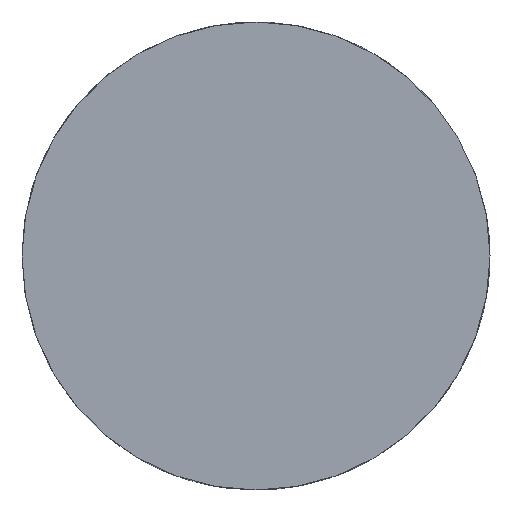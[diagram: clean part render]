
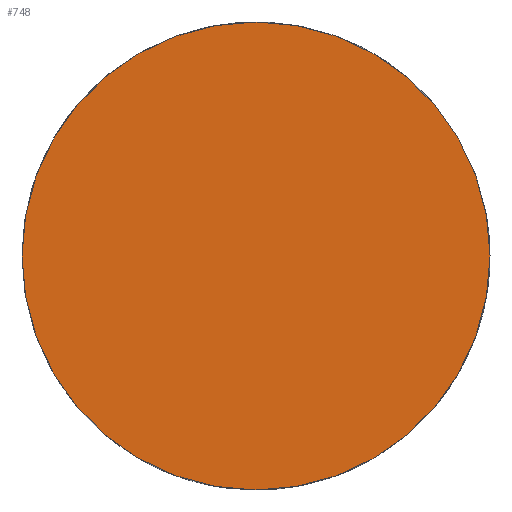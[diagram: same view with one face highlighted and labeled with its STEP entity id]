
A CAD part, front view. The second image highlights one B-rep face of the part: STEP entity #748.
In plain terms, the highlighted planar face has unit normal (0, -1, 0).
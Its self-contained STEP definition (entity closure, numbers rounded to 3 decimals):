
#118=CARTESIAN_POINT('Vertex',(-51.711,-44.,64.933)) ;
#121=CARTESIAN_POINT('Axis2P3D Location',(-34.873,-44.,64.933)) ;
#125=CARTESIAN_POINT('Vertex',(-18.036,-44.,64.933)) ;
#704=CARTESIAN_POINT('Axis2P3D Location',(-34.873,-44.,64.933)) ;
#739=CARTESIAN_POINT('Axis2P3D Location',(0.,-44.,162.192)) ;
#122=DIRECTION('Axis2P3D Direction',(0.,1.,-0.)) ;
#705=DIRECTION('Axis2P3D Direction',(0.,1.,-0.)) ;
#740=DIRECTION('Axis2P3D Direction',(0.,1.,0.)) ;
#741=DIRECTION('Axis2P3D XDirection',(0.,0.,-1.)) ;
#123=AXIS2_PLACEMENT_3D('Circle Axis2P3D',#121,#122,$) ;
#706=AXIS2_PLACEMENT_3D('Circle Axis2P3D',#704,#705,$) ;
#742=AXIS2_PLACEMENT_3D('Plane Axis2P3D',#739,#740,#741) ;
#745=ORIENTED_EDGE('',*,*,#708,.F.) ;
#746=ORIENTED_EDGE('',*,*,#127,.F.) ;
#748=ADVANCED_FACE('Hauptk\X2\00F6\X0\rper',(#747),#743,.F.) ;
#124=CIRCLE('generated circle',#123,16.838) ;
#707=CIRCLE('generated circle',#706,16.838) ;
#127=EDGE_CURVE('',#119,#126,#124,.T.) ;
#708=EDGE_CURVE('',#126,#119,#707,.T.) ;
#744=EDGE_LOOP('',(#745,#746)) ;
#747=FACE_OUTER_BOUND('',#744,.T.) ;
#743=PLANE('Plane',#742) ;
#119=VERTEX_POINT('',#118) ;
#126=VERTEX_POINT('',#125) ;
